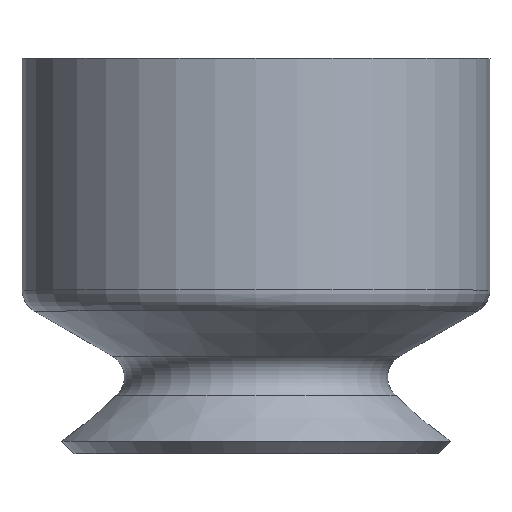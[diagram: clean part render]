
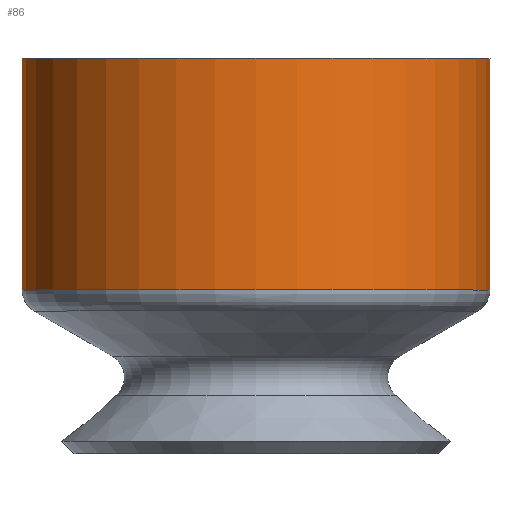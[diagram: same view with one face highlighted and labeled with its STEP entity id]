
A CAD part, top view. The second image highlights one B-rep face of the part: STEP entity #86.
In plain terms, the highlighted cylindrical face has radius 3.85 mm (diameter 7.7 mm), a full revolution.
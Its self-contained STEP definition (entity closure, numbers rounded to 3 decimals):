
#86=ADVANCED_FACE('',(#127,#128),#129,.T.);
#127=FACE_OUTER_BOUND('',#215,.T.);
#128=FACE_OUTER_BOUND('',#216,.T.);
#129=CYLINDRICAL_SURFACE('',#217,3.85);
#215=EDGE_LOOP('',(#288));
#216=EDGE_LOOP('',(#289));
#217=AXIS2_PLACEMENT_3D('',#290,#291,#292);
#288=ORIENTED_EDGE('',*,*,#334,.T.);
#289=ORIENTED_EDGE('',*,*,#337,.T.);
#290=CARTESIAN_POINT('',(0.0,0.0,0.0));
#291=DIRECTION('',(0.0,-1.0,0.));
#292=DIRECTION('',(0.0,0.,-1.0));
#334=EDGE_CURVE('',#363,#363,#364,.T.);
#337=EDGE_CURVE('',#369,#369,#370,.T.);
#363=VERTEX_POINT('',#399);
#364=CIRCLE('',#400,3.85);
#369=VERTEX_POINT('',#405);
#370=CIRCLE('',#406,3.85);
#399=CARTESIAN_POINT('',(0.0,2.689,3.85));
#400=AXIS2_PLACEMENT_3D('',#446,#447,#448);
#405=CARTESIAN_POINT('',(3.85,6.5,0.));
#406=AXIS2_PLACEMENT_3D('',#455,#456,#457);
#446=CARTESIAN_POINT('',(0.0,2.689,0.));
#447=DIRECTION('',(0.0,1.0,0.));
#448=DIRECTION('',(0.0,0.,1.0));
#455=CARTESIAN_POINT('',(0.0,6.5,0.));
#456=DIRECTION('',(0.0,-1.0,0.));
#457=DIRECTION('',(0.0,0.,-1.0));
